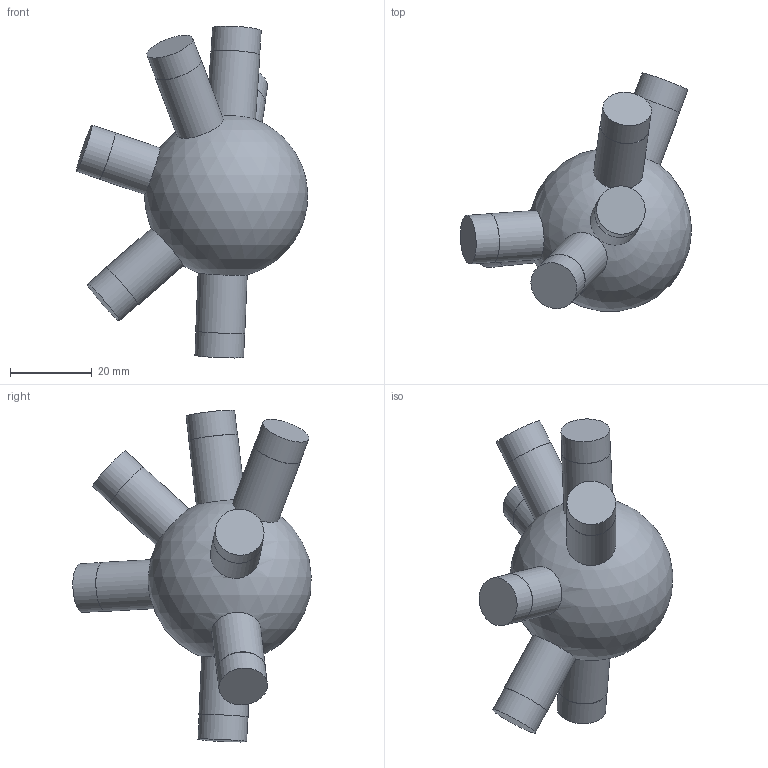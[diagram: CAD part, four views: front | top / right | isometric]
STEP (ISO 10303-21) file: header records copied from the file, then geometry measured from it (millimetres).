
FILE_DESCRIPTION(('Open CASCADE Model'),'2;1');
FILE_NAME('Open CASCADE Shape Model','2026-10-21T12:47:57',('Author'),( 'Open CASCADE'),'Open CASCADE STEP processor 7.9','Open CASCADE 7.9' ,'Unknown');
FILE_SCHEMA(('AUTOMOTIVE_DESIGN { 1 0 10303 214 1 1 1 1 }'));
Length unit declared in the file: millimetre
Products named in the file (1): Open CASCADE STEP translator 7.9 89
Bounding box: 56.54 x 58.22 x 81.12 mm (x, y, z)
Volume: 49302.4 mm3; surface area: 10407.5 mm2
Topology: 1 solids, 1 shells, 29 faces, 45 edges, 30 vertices
Faces by surface type: cylinder 14, plane 14, sphere 1
Full cylindrical faces by diameter (mm): 11.9 x7, 12 x7
Entity records: 1730 total; most frequent: CARTESIAN_POINT 678, DIRECTION 217, ORIENTED_EDGE 90, PCURVE 90, DEFINITIONAL_REPRESENTATION 90, LINE 74, VECTOR 74, AXIS2_PLACEMENT_3D 61
